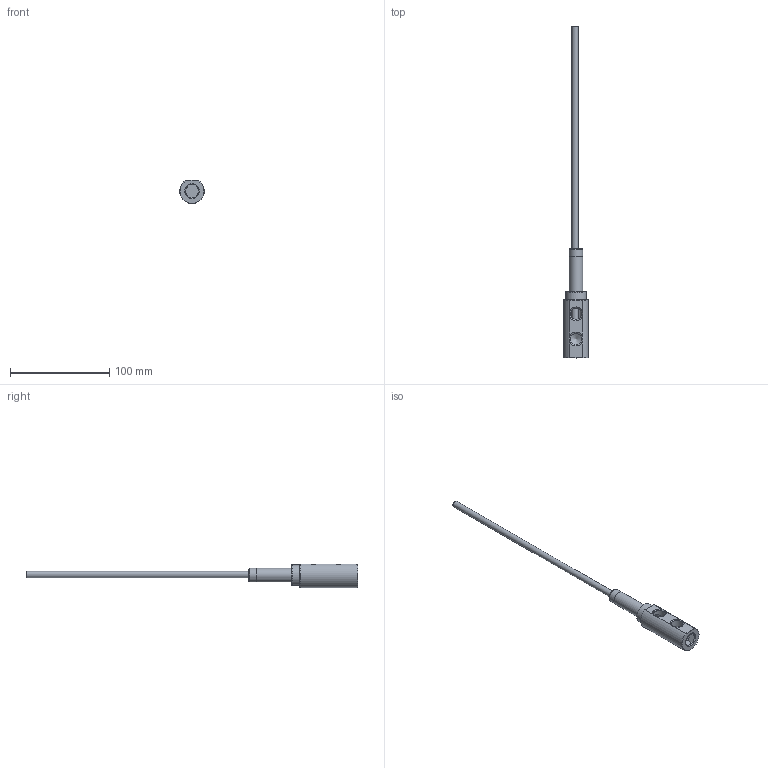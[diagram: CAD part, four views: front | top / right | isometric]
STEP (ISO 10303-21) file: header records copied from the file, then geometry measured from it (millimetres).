
FILE_DESCRIPTION(/* description */ (''),/* implementation_level */ '2;1');
FILE_NAME(/* name */ 'C:/Users/drich/Desktop/E141N-4 v1.step',/* time_stamp */ '2020-01-15T19:30:41-06:00',/* author */ (''),/* organization */ (''),/* preprocessor_version */ 'ST-DEVELOPER v18',/* originating_system */ 'Autodesk Translation Framework v8.12.0.6',/* authorisation */ '');
FILE_SCHEMA (('AUTOMOTIVE_DESIGN { 1 0 10303 214 3 1 1 }'));
Length unit declared in the file: inch
Products named in the file (4): E141N-4; E141H-4; SSPN14-2; HF250T-12
Assembly tree (3 placements, depth 2):
  E141N-4
    E141H-4
    SSPN14-2
    HF250T-12
Bounding box: 25.02 x 334.19 x 23.29 mm (x, y, z)
Volume: 28478.7 mm3; surface area: 23872.8 mm2
Topology: 3 solids, 3 shells, 64 faces, 162 edges, 107 vertices
Faces by surface type: plane 30, cylinder 15, cone 13, torus 5, bspline 1
Full cylindrical faces by diameter (mm): 5.842 x1, 6.35 x1, 6.909 x1, 7.818 x1, 7.976 x1, 9.246 x1, 11.668 x3, 13.665 x2, 13.716 x1, 14.665 x1, 20.625 x1
Entity records: 2198 total; most frequent: CARTESIAN_POINT 514, DIRECTION 351, ORIENTED_EDGE 322, EDGE_CURVE 161, AXIS2_PLACEMENT_3D 151, VERTEX_POINT 107, CIRCLE 79, EDGE_LOOP 76
